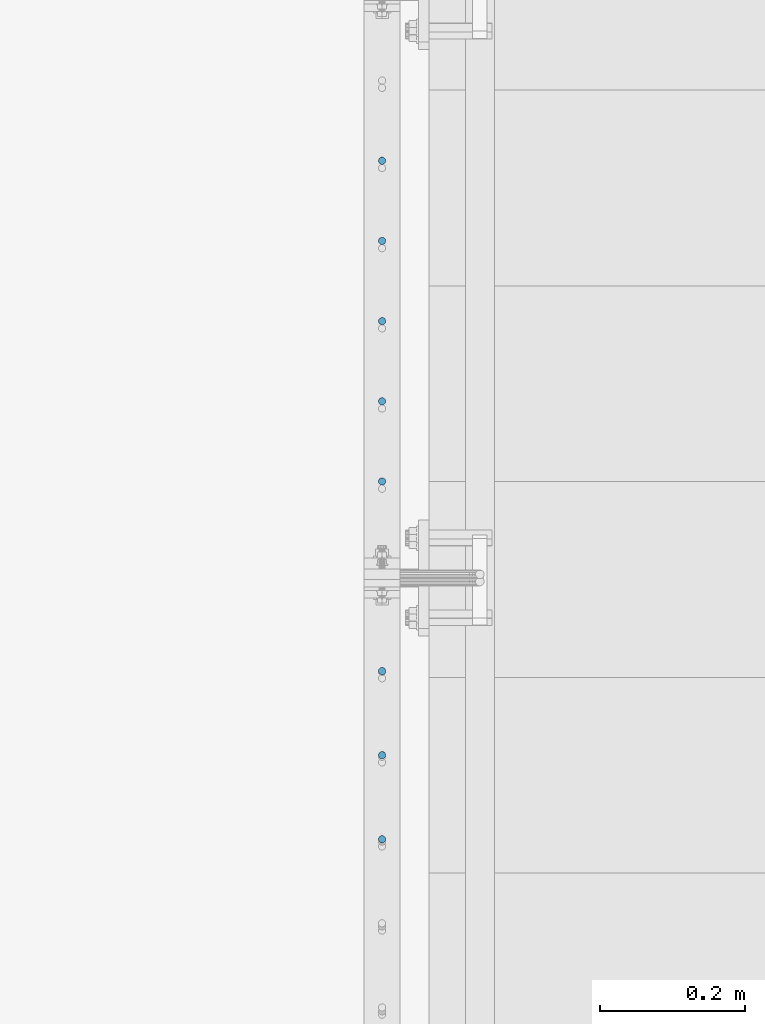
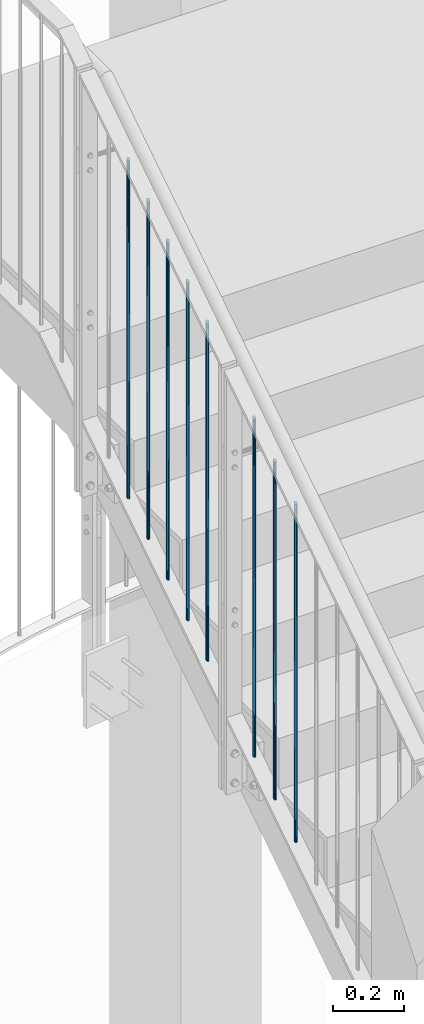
# One storey, part 12 of 296: 8 columns.
"""IFC2X3 building model written with IfcOpenShell, lengths in millimetres."""

from ifc_helpers import new_model, entity, si_unit, converted_unit, frame, origin, origin_with_axes, origin_2d, place, context, project, spatial, circle, extrude, clip, halfspace, material, element, save


model = new_model("IFC2X3")

# Units and contexts
model_context = context("Model", 3, precision=1e-09, world=origin_with_axes())
ifc_project = project(units=[si_unit("LENGTHUNIT", "METRE", prefix="MILLI"), si_unit("AREAUNIT", "SQUARE_METRE"), si_unit("VOLUMEUNIT", "CUBIC_METRE"), converted_unit("PLANEANGLEUNIT", "DEGREE", entity("IfcPlaneAngleMeasure", 0.01745329), si_unit("PLANEANGLEUNIT", "RADIAN"), dimensions=[0, 0, 0, 0, 0, 0, 0])], contexts=[model_context])

# Site, building, storey
site_placement = place(None, origin_with_axes())
site = spatial("IfcSite", under=ifc_project, at=site_placement, Name="TZD-S?d | Treppenhausgel?nder", CompositionType="ELEMENT")
building_placement = place(site_placement, origin_with_axes())
building = spatial("IfcBuilding", under=site, at=building_placement, Name="Struktur 1", CompositionType="ELEMENT")
storey_placement = place(building_placement, origin_with_axes())
storey = spatial("IfcBuildingStorey", under=building, at=storey_placement, Name="Default Storey", CompositionType="ELEMENT", Elevation=0.0)

# Columns
ifc_material = material(Name="S235JR")
column_1_placement = place(None, frame((-45.0, -2503.6111111, 10959.083632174), z_axis=(0.0, 0.0, 1.0), x_axis=(0.0, 1.0, 0.0)))
element("IfcColumn", 1, at=column_1_placement, inside=storey, material=ifc_material, Name="-", ObjectType="-", context=model_context, shape_type="Clipping", body=[
    clip(clip(extrude(circle(Radius=5.0, at=origin_2d()), origin(), (0.0, 0.0, 1.0), 1184.934501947), halfspace(frame((-3769.517814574, -45.0, -1269.992821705), z_axis=(0.543478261, 0.0, -0.839423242), x_axis=(0.0, 1.0, 0.0)), True)), halfspace(frame((-3242.062691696, -45.0, -2084.667706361), z_axis=(-0.543478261, 0.0, 0.839423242), x_axis=(0.0, -1.0, 0.0)), True)),
])
column_2_placement = place(None, frame((-45.0, -1798.9285714, 11415.3250391), z_axis=(0.0, 0.0, 1.0), x_axis=(0.0, 1.0, 0.0)))
element("IfcColumn", 2, at=column_2_placement, inside=storey, material=ifc_material, Name="-", ObjectType="-", context=model_context, shape_type="Clipping", body=[
    clip(clip(extrude(circle(Radius=5.0, at=origin_2d()), origin(), (0.0, 0.0, 1.0), 1184.934501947), halfspace(frame((-4474.200354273, -45.0, -1726.234228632), z_axis=(0.543478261, 0.0, -0.839423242), x_axis=(0.0, 1.0, 0.0)), True)), halfspace(frame((-3946.745231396, -45.0, -2540.909113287), z_axis=(-0.543478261, 0.0, 0.839423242), x_axis=(0.0, -1.0, 0.0)), True)),
])
column_3_placement = place(None, frame((-45.0, -1909.6428571, 11343.643908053), z_axis=(0.0, 0.0, 1.0), x_axis=(0.0, 1.0, 0.0)))
element("IfcColumn", 3, at=column_3_placement, inside=storey, material=ifc_material, Name="-", ObjectType="-", context=model_context, shape_type="Clipping", body=[
    clip(clip(extrude(circle(Radius=5.0, at=origin_2d()), origin(), (0.0, 0.0, 1.0), 1184.934501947), halfspace(frame((-4363.486068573, -45.0, -1654.553097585), z_axis=(0.543478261, 0.0, -0.839423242), x_axis=(0.0, 1.0, 0.0)), True)), halfspace(frame((-3836.030945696, -45.0, -2469.22798224), z_axis=(-0.543478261, 0.0, 0.839423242), x_axis=(0.0, -1.0, 0.0)), True)),
])
column_4_placement = place(None, frame((-45.0, -2020.3571428, 11271.962777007), z_axis=(0.0, 0.0, 1.0), x_axis=(0.0, 1.0, 0.0)))
element("IfcColumn", 4, at=column_4_placement, inside=storey, material=ifc_material, Name="-", ObjectType="-", context=model_context, shape_type="Clipping", body=[
    clip(clip(extrude(circle(Radius=5.0, at=origin_2d()), origin(), (0.0, 0.0, 1.0), 1184.934501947), halfspace(frame((-3725.316659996, -45.0, -2397.546851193), z_axis=(-0.543478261, 0.0, 0.839423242), x_axis=(0.0, -1.0, 0.0)), True)), halfspace(frame((-4252.771782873, -45.0, -1582.871966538), z_axis=(0.543478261, 0.0, -0.839423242), x_axis=(0.0, 1.0, 0.0)), True)),
])
column_5_placement = place(None, frame((-45.0, -2131.0714285, 11200.28164596), z_axis=(0.0, 0.0, 1.0), x_axis=(0.0, 1.0, 0.0)))
element("IfcColumn", 5, at=column_5_placement, inside=storey, material=ifc_material, Name="-", ObjectType="-", context=model_context, shape_type="Clipping", body=[
    clip(clip(extrude(circle(Radius=5.0, at=origin_2d()), origin(), (0.0, 0.0, 1.0), 1184.934501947), halfspace(frame((-4142.057497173, -45.0, -1511.190835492), z_axis=(0.543478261, 0.0, -0.839423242), x_axis=(0.0, 1.0, 0.0)), True)), halfspace(frame((-3614.602374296, -45.0, -2325.865720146), z_axis=(-0.543478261, 0.0, 0.839423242), x_axis=(0.0, -1.0, 0.0)), True)),
])
column_6_placement = place(None, frame((-45.0, -2241.7857142, 11128.600514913), z_axis=(0.0, 0.0, 1.0), x_axis=(0.0, 1.0, 0.0)))
element("IfcColumn", 6, at=column_6_placement, inside=storey, material=ifc_material, Name="-", ObjectType="-", context=model_context, shape_type="Clipping", body=[
    clip(clip(extrude(circle(Radius=5.0, at=origin_2d()), origin(), (0.0, 0.0, 1.0), 1184.934501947), halfspace(frame((-3503.888088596, -45.0, -2254.184589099), z_axis=(-0.543478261, 0.0, 0.839423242), x_axis=(0.0, -1.0, 0.0)), True)), halfspace(frame((-4031.343211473, -45.0, -1439.509704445), z_axis=(0.543478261, 0.0, -0.839423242), x_axis=(0.0, 1.0, 0.0)), True)),
])
column_7_placement = place(None, frame((-45.0, -2619.7222222, 10883.908367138), z_axis=(0.0, 0.0, 1.0), x_axis=(0.0, 1.0, 0.0)))
element("IfcColumn", 7, at=column_7_placement, inside=storey, material=ifc_material, Name="-", ObjectType="-", context=model_context, shape_type="Clipping", body=[
    clip(clip(extrude(circle(Radius=5.0, at=origin_2d()), origin(), (0.0, 0.0, 1.0), 1184.934501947), halfspace(frame((-3125.951580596, -45.0, -2009.492441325), z_axis=(-0.543478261, 0.0, 0.839423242), x_axis=(0.0, -1.0, 0.0)), True)), halfspace(frame((-3653.406703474, -45.0, -1194.81755667), z_axis=(0.543478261, 0.0, -0.839423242), x_axis=(0.0, 1.0, 0.0)), True)),
])
column_8_placement = place(None, frame((-45.0, -2735.8333333, 10808.733102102), z_axis=(0.0, 0.0, 1.0), x_axis=(0.0, 1.0, 0.0)))
element("IfcColumn", 8, at=column_8_placement, inside=storey, material=ifc_material, Name="-", ObjectType="-", context=model_context, shape_type="Clipping", body=[
    clip(clip(extrude(circle(Radius=5.0, at=origin_2d()), origin(), (0.0, 0.0, 1.0), 1184.934501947), halfspace(frame((-3537.295592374, -45.0, -1119.642291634), z_axis=(0.543478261, 0.0, -0.839423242), x_axis=(0.0, 1.0, 0.0)), True)), halfspace(frame((-3009.840469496, -45.0, -1934.317176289), z_axis=(-0.543478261, 0.0, 0.839423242), x_axis=(0.0, -1.0, 0.0)), True)),
])

save(model, "model.ifc")
